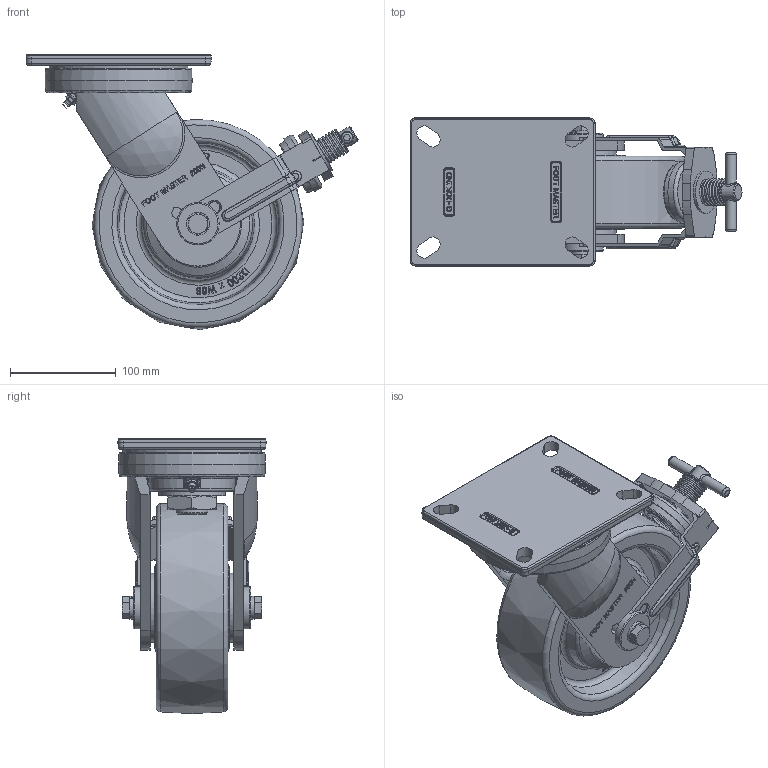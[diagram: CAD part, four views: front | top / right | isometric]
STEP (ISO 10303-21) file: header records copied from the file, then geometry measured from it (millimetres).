
FILE_DESCRIPTION(/* description */ (''),/* implementation_level */ '2;1');
FILE_NAME(/* name */ 'Y:\1.기술연구소\2.연구개발 진행중\133.고하중캐스터 브레이크 타입 변경건_2025.11.03\1.도면\4.홈페이지용 도면\01. 3D\GXT-200 SERIES\GXT-200-STEP\GXT-200N-BSF-NYD.stp',/* time_stamp */ '2026-07-21T19:24:36+09:00',/* author */ ('장용하'),/* organization */ (''),/* preprocessor_version */ 'ST-DEVELOPER v18.1',/* originating_system */ 'Autodesk Inventor 2021',/* authorisation */ '');
FILE_SCHEMA (('CONFIG_CONTROL_DESIGN'));
Products named in the file (1): GXT-200N-BSF-NYD
Bounding box: 313.74 x 140 x 259.97 mm (x, y, z)
Volume: 2860632.1 mm3; surface area: 299676.9 mm2
Topology: 1 solids, 1 shells, 2118 faces, 5702 edges, 3736 vertices
Faces by surface type: plane 997, bspline 817, cylinder 193, torus 61, cone 46, sphere 4
Full cylindrical faces by diameter (mm): 10 x2, 12 x2, 13 x2, 16 x1, 20 x1, 30 x1, 31.606 x1, 40 x3, 54 x2, 58 x1, 62.5 x1, 65 x2, 131.086 x1
Entity records: 71479 total; most frequent: CARTESIAN_POINT 23474, ORIENTED_EDGE 11406, DIRECTION 7361, EDGE_CURVE 5703, VERTEX_POINT 3738, LINE 3277, VECTOR 3277, EDGE_LOOP 2295
